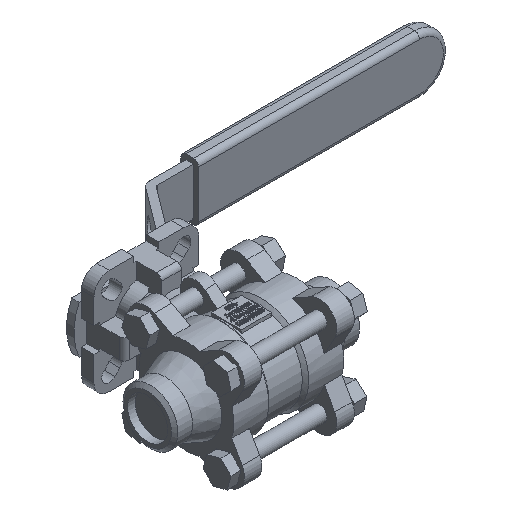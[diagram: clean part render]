
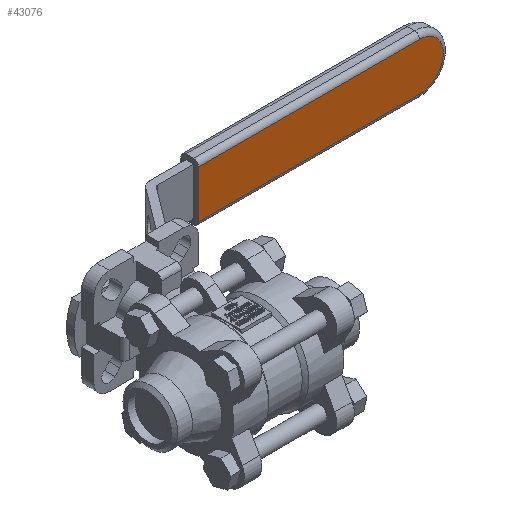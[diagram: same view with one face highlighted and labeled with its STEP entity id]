
A CAD part, isometric view. The second image highlights one B-rep face of the part: STEP entity #43076.
In plain terms, the highlighted planar face has unit normal (0, -1, 0).
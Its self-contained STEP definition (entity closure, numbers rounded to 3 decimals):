
#42959=CARTESIAN_POINT('',(50.335,67.5,9.5));
#42960=VERTEX_POINT('',#42959);
#42968=CARTESIAN_POINT('',(138.835,67.5,9.5));
#42969=VERTEX_POINT('',#42968);
#42970=CARTESIAN_POINT('',(50.335,67.5,9.5));
#42971=DIRECTION('',(1.0,0.0,0.0));
#42972=VECTOR('',#42971,88.5);
#42973=LINE('',#42970,#42972);
#42974=EDGE_CURVE('',#42960,#42969,#42973,.T.);
#42999=CARTESIAN_POINT('',(138.835,67.5,-9.5));
#43000=VERTEX_POINT('',#42999);
#43018=CARTESIAN_POINT('',(138.835,67.5,0.));
#43019=DIRECTION('',(0.0,1.0,0.0));
#43020=DIRECTION('',(1.0,0.0,0.0));
#43021=AXIS2_PLACEMENT_3D('',#43018,#43019,#43020);
#43022=CIRCLE('',#43021,9.5);
#43023=EDGE_CURVE('',#42969,#43000,#43022,.T.);
#43033=CARTESIAN_POINT('',(50.335,67.5,-9.5));
#43034=VERTEX_POINT('',#43033);
#43051=CARTESIAN_POINT('',(138.835,67.5,-9.5));
#43052=DIRECTION('',(-1.0,0.0,0.0));
#43053=VECTOR('',#43052,88.5);
#43054=LINE('',#43051,#43053);
#43055=EDGE_CURVE('',#43000,#43034,#43054,.T.);
#43060=CARTESIAN_POINT('',(50.335,67.5,-11.5));
#43061=DIRECTION('',(0.0,-1.0,0.0));
#43062=DIRECTION('',(0.0,0.0,-1.0));
#43063=AXIS2_PLACEMENT_3D('',#43060,#43061,#43062);
#43064=PLANE('',#43063);
#43065=ORIENTED_EDGE('',*,*,#43055,.F.);
#43066=ORIENTED_EDGE('',*,*,#43023,.F.);
#43067=ORIENTED_EDGE('',*,*,#42974,.F.);
#43068=CARTESIAN_POINT('',(50.335,67.5,-9.5));
#43069=DIRECTION('',(0.0,0.0,1.0));
#43070=VECTOR('',#43069,19.0);
#43071=LINE('',#43068,#43070);
#43072=EDGE_CURVE('',#43034,#42960,#43071,.T.);
#43073=ORIENTED_EDGE('',*,*,#43072,.F.);
#43074=EDGE_LOOP('',(#43065,#43066,#43067,#43073));
#43075=FACE_OUTER_BOUND('',#43074,.T.);
#43076=ADVANCED_FACE('',(#43075),#43064,.T.);
